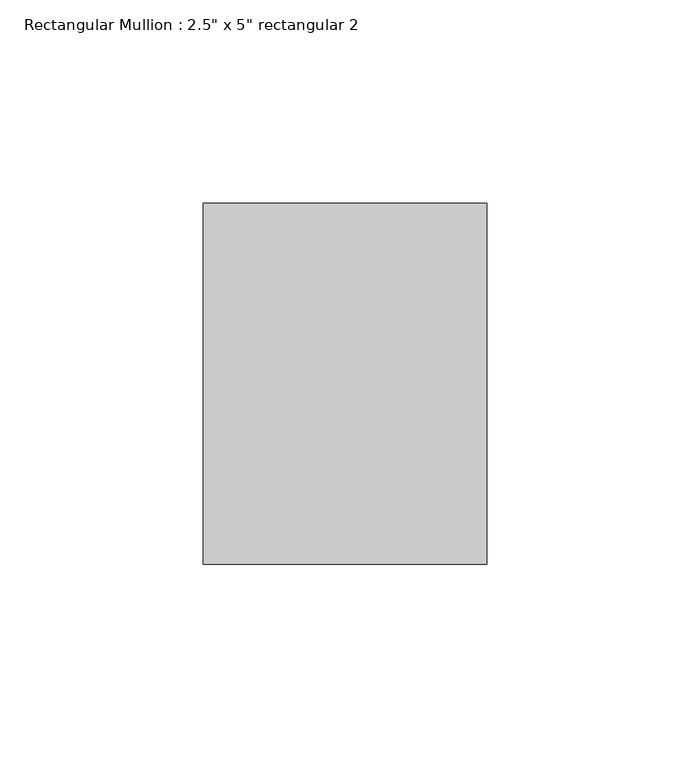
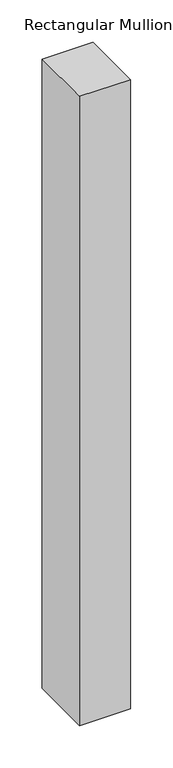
"""IFC4 building model written with IfcOpenShell, lengths in millimetres: member geometry."""

import ifcopenshell
import ifcopenshell.guid

model = None  # the IFC model being written
_history = None  # IfcOwnerHistory: only IFC2X3 demands one
_inside = {}  # id of a spatial element -> (the spatial element, [elements in it])
_under = {}  # id of a project, library or spatial element -> (it, [spatial elements below it])
_declared = {}  # id of a project -> (the project, [libraries it declares])
_typed = {}  # id of a type object -> (the type object, [elements of that type])
_made_of = {}  # id of a material, layer set ... -> (it, [elements and type objects made of it])


def new_model(schema):
    """Start an empty IFC model of exactly this schema.

    Asked for "IFC4X3", IfcOpenShell would pick the latest addendum, in which some entities
    have other attributes; the version numbers below select the first issue.
    IFC2X3 requires an IfcOwnerHistory on every rooted entity: one is made here for all.
    """
    global model, _history
    if schema == "IFC4X3":
        model = ifcopenshell.file(schema_version=(4, 3, 0, 0))
    else:
        model = ifcopenshell.file(schema=schema)
    _inside.clear()
    _under.clear()
    _declared.clear()
    _typed.clear()
    _made_of.clear()
    _history = None
    if model.schema == "IFC2X3":
        org = make("IfcOrganization", Name="unknown")
        user = make(
            "IfcPersonAndOrganization",
            ThePerson=make("IfcPerson", FamilyName="unknown"),
            TheOrganization=org,
        )
        app = make(
            "IfcApplication",
            ApplicationDeveloper=org,
            Version="unknown",
            ApplicationFullName="unknown",
            ApplicationIdentifier="unknown",
        )
        _history = make(
            "IfcOwnerHistory",
            OwningUser=user,
            OwningApplication=app,
            ChangeAction="ADDED",
            CreationDate=0,
        )
    return model


def make(cls, **values):
    """One entity of the class cls with the attributes given. An attribute that is None is left unset."""
    return model.create_entity(
        cls, **{name: value for name, value in values.items() if value is not None}
    )


def rooted(cls, **values):
    """An entity with a GlobalId (a new one), such as an element, a storey or a relation."""
    return make(cls, GlobalId=ifcopenshell.guid.new(), OwnerHistory=_history, **values)


def si_unit(unit_type, name, prefix=None):
    """IfcSIUnit, for example si_unit("LENGTHUNIT", "METRE", prefix="MILLI")."""
    return make("IfcSIUnit", UnitType=unit_type, Prefix=prefix, Name=name)


def assignment(units):
    """IfcUnitAssignment: the units of a project."""
    return None if units is None else make("IfcUnitAssignment", Units=units)


def point(xyz):
    """IfcCartesianPoint."""
    return None if xyz is None else make("IfcCartesianPoint", Coordinates=xyz)


def direction(xyz):
    """IfcDirection."""
    return None if xyz is None else make("IfcDirection", DirectionRatios=xyz)


def frame(location, z_axis=None, x_axis=None):
    """IfcAxis2Placement3D, a coordinate frame: its origin and axes. An axis left out is left unset."""
    return make(
        "IfcAxis2Placement3D",
        Location=point(location),
        Axis=direction(z_axis),
        RefDirection=direction(x_axis),
    )


def origin():
    """The frame at (0, 0, 0) with its axes left unset."""
    return frame((0.0, 0.0, 0.0))


def place(relative_to, where):
    """IfcLocalPlacement: puts the frame where relative to a parent placement (None: the world)."""
    return make(
        "IfcLocalPlacement", PlacementRelTo=relative_to, RelativePlacement=where
    )


def context(
    kind, dimensions, precision=None, world=None, true_north=None, identifier=None
):
    """IfcGeometricRepresentationContext, for example the 3D "Model" context."""
    return make(
        "IfcGeometricRepresentationContext",
        ContextIdentifier=identifier,
        ContextType=kind,
        CoordinateSpaceDimension=dimensions,
        Precision=precision,
        WorldCoordinateSystem=world,
        TrueNorth=true_north,
    )


def project(units=None, contexts=None):
    """IfcProject with its units and contexts."""
    return rooted(
        "IfcProject",
        Name="project",
        RepresentationContexts=contexts,
        UnitsInContext=assignment(units),
    )


def spatial(cls, under=None, at=None, **own):
    """A site, building, storey or space (cls), placed at a placement, below another one or the project."""
    s = rooted(cls, ObjectPlacement=at, **own)
    if under is not None:
        _under.setdefault(under.id(), (under, []))[1].append(s)
    return s


def polyline(points):
    """IfcPolyline through the points."""
    return make("IfcPolyline", Points=[point(p) for p in points])


def outline(outer, holes=None, kind="AREA"):
    """IfcArbitraryClosedProfileDef: a profile drawn as a closed curve; with holes, ...WithVoids."""
    if holes is None:
        return make("IfcArbitraryClosedProfileDef", ProfileType=kind, OuterCurve=outer)
    return make(
        "IfcArbitraryProfileDefWithVoids",
        ProfileType=kind,
        OuterCurve=outer,
        InnerCurves=holes,
    )


def extrude(swept, where, along, depth):
    """IfcExtrudedAreaSolid: the profile swept, set in the frame where, extruded along a direction by depth."""
    return make(
        "IfcExtrudedAreaSolid",
        SweptArea=swept,
        Position=where,
        ExtrudedDirection=direction(along),
        Depth=depth,
    )


def shape(context_of_items, identifier, shape_type, items):
    """IfcShapeRepresentation: the items that make up one representation, for example the "Body"."""
    return make(
        "IfcShapeRepresentation",
        ContextOfItems=context_of_items,
        RepresentationIdentifier=identifier,
        RepresentationType=shape_type,
        Items=items,
    )


def source(mapping_origin, context_of_items, identifier, shape_type, items):
    """IfcRepresentationMap: a shape defined once, which mapped items show again and again."""
    return make(
        "IfcRepresentationMap",
        MappingOrigin=mapping_origin,
        MappedRepresentation=shape(context_of_items, identifier, shape_type, items),
    )


def transform(
    local_origin,
    x_axis=None,
    y_axis=None,
    z_axis=None,
    scale=None,
    scale2=None,
    scale3=None,
    uniform=True,
):
    """IfcCartesianTransformationOperator3D, or its non-uniform kind. x_axis, y_axis, z_axis: its Axis1, 2, 3."""
    if uniform:
        return make(
            "IfcCartesianTransformationOperator3D",
            Axis1=direction(x_axis),
            Axis2=direction(y_axis),
            LocalOrigin=point(local_origin),
            Scale=scale,
            Axis3=direction(z_axis),
        )
    return make(
        "IfcCartesianTransformationOperator3DnonUniform",
        Axis1=direction(x_axis),
        Axis2=direction(y_axis),
        LocalOrigin=point(local_origin),
        Scale=scale,
        Axis3=direction(z_axis),
        Scale2=scale2,
        Scale3=scale3,
    )


def mapped(mapping_source, mapping_target):
    """IfcMappedItem: shows the shape of a source again, moved by a transform."""
    return make(
        "IfcMappedItem", MappingSource=mapping_source, MappingTarget=mapping_target
    )


def made_of(thing, what):
    """Note that an element or type object is made of a material, layer set ...; save() writes the relation."""
    if what is not None:
        _made_of.setdefault(what.id(), (what, []))[1].append(thing)
    return thing


def element(
    cls,
    number,
    at=None,
    inside=None,
    cuts=None,
    type_object=None,
    material=None,
    context=None,
    identifier="Body",
    shape_type=None,
    held_by="IfcProductDefinitionShape",
    body=None,
    shapes=None,
    **own,
):
    """One element of the class cls, such as IfcWall. Its Tag is "e" and its number.

    at: its placement. inside: the storey or other place that contains it. cuts: it is an
    opening in that element (IfcRelVoidsElement). A single representation is given by context,
    identifier, shape_type and body (its items); several are given by shapes. held_by: the class
    of the entity that holds the representations. save() writes the other relations.
    """
    e = rooted(cls, Tag="e%d" % number, ObjectPlacement=at, **own)
    if body is not None:
        shapes = [shape(context, identifier, shape_type, body)]
    if shapes is not None:
        e.Representation = make(held_by, Representations=shapes)
    if inside is not None:
        _inside.setdefault(inside.id(), (inside, []))[1].append(e)
    if cuts is not None:
        rooted(
            "IfcRelVoidsElement", RelatingBuildingElement=cuts, RelatedOpeningElement=e
        )
    if type_object is not None:
        _typed.setdefault(type_object.id(), (type_object, []))[1].append(e)
    return made_of(e, material)


def aggregate(whole, parts):
    """IfcRelAggregates: a whole, such as a stair, and the parts it consists of."""
    return rooted("IfcRelAggregates", RelatingObject=whole, RelatedObjects=parts)


def save(model, path):
    """Write the relations noted so far, then the file.

    IfcRelAggregates (storeys below a building ...), IfcRelContainedInSpatialStructure (elements
    in a storey), IfcRelDefinesByType, IfcRelAssociatesMaterial and IfcRelDeclares: one each for
    every whole, place, type object, material and project.
    """
    for whole, parts in _under.values():
        aggregate(whole, parts)
    for where, things in _inside.values():
        rooted(
            "IfcRelContainedInSpatialStructure",
            RelatedElements=things,
            RelatingStructure=where,
        )
    for kind, things in _typed.values():
        rooted("IfcRelDefinesByType", RelatedObjects=things, RelatingType=kind)
    for what, things in _made_of.values():
        rooted("IfcRelAssociatesMaterial", RelatedObjects=things, RelatingMaterial=what)
    for by, libraries in _declared.values():
        rooted("IfcRelDeclares", RelatingContext=by, RelatedDefinitions=libraries)
    model.write(path)


def member_a57e5e80(model_context):
    return source(origin(), model_context, "Body", "SweptSolid", [
        extrude(outline(polyline([(0.0, 44.45), (0.0, -44.45), (-69.85, -44.45), (-69.85, 44.45), (0.0, 44.45)])), frame((0.0, 0.0, -909.5309364), z_axis=(0.0, 0.0, 1.0), x_axis=(1.0, 0.0, 0.0)), (0.0, 0.0, 1.0), 909.5309364),
    ])


if __name__ == "__main__":
    model = new_model("IFC4")
    model_context = context("Model", 3, world=origin())
    ifc_project = project(units=[si_unit("LENGTHUNIT", "METRE", prefix="MILLI")], contexts=[model_context])
    site = spatial("IfcSite", under=ifc_project)
    building = spatial("IfcBuilding", under=site)
    placement = place(None, origin())
    member_shape = member_a57e5e80(model_context)
    element("IfcMember", 1, ObjectType="Rectangular Mullion : 2.5\" x 5\" rectangular 2", at=placement, inside=building, context=model_context, shape_type="MappedRepresentation", body=[
        mapped(member_shape, transform((0.0, 0.0, 0.0), x_axis=(1.0, 0.0, 0.0), y_axis=(0.0, 1.0, 0.0), z_axis=(0.0, 0.0, 1.0))),
    ])
    save(model, "model.ifc")
